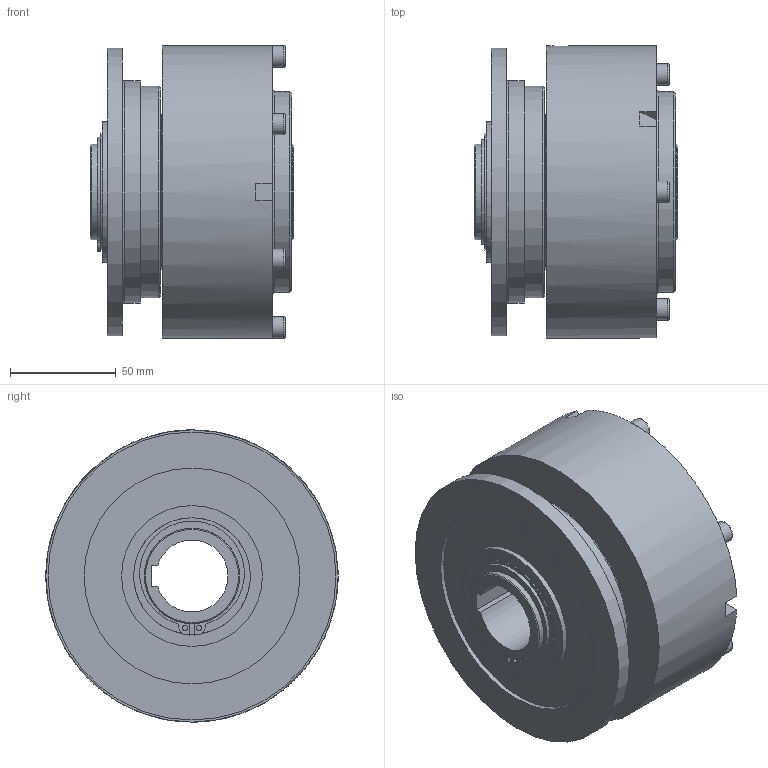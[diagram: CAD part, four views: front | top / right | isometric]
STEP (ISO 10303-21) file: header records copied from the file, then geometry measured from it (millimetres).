
FILE_DESCRIPTION(/* description */ (''),/* implementation_level */ '2;1');
FILE_NAME(/* name */ 'T:\INVENTOR\DISEGNI\03_Friz_Oleod_Pneum_Cil_Stat\03_53 MP-N\03_53_02_01 MP-N02\03_53_02_01 MP-N02@STEP.stp',/* time_stamp */ '2021-02-15T14:12:09+01:00',/* author */ ('w.sartori'),/* organization */ (''),/* preprocessor_version */ 'ST-DEVELOPER v18.1',/* originating_system */ 'Autodesk Inventor 2021',/* authorisation */ '');
FILE_SCHEMA (('AUTOMOTIVE_DESIGN { 1 0 10303 214 3 1 1 }'));
Products named in the file (1): 03_53_02_01 MP-N02
Bounding box: 96 x 138 x 138 mm (x, y, z)
Volume: 842228.9 mm3; surface area: 257510.9 mm2
Topology: 1 solids, 15 shells, 1099 faces, 3204 edges, 2113 vertices
Faces by surface type: cylinder 381, bspline 259, plane 201, torus 137, cone 100, sphere 21
Full cylindrical faces by diameter (mm): 2.5 x4, 3.5 x2, 4.917 x6, 5.25 x3, 6 x7, 6.5 x6, 7.5 x18, 8.566 x1, 10 x6, 42.5 x2, 45 x6, 54 x1, 55 x1, 55.5 x1, 57.8 x2, 60 x1, 64.5 x1, 65 x2, 66.5 x1, 72.2 x2, 73 x4, 74 x1, 76.2 x2, 82.5 x2, 85 x3, 88.5 x1, 88.8 x2, 91 x1, 95 x1, 100 x4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
Entity records: 72241 total; most frequent: CARTESIAN_POINT 42937, ORIENTED_EDGE 6298, DIRECTION 5591, EDGE_CURVE 3149, AXIS2_PLACEMENT_3D 2490, VERTEX_POINT 2113, CIRCLE 1641, EDGE_LOOP 1267
